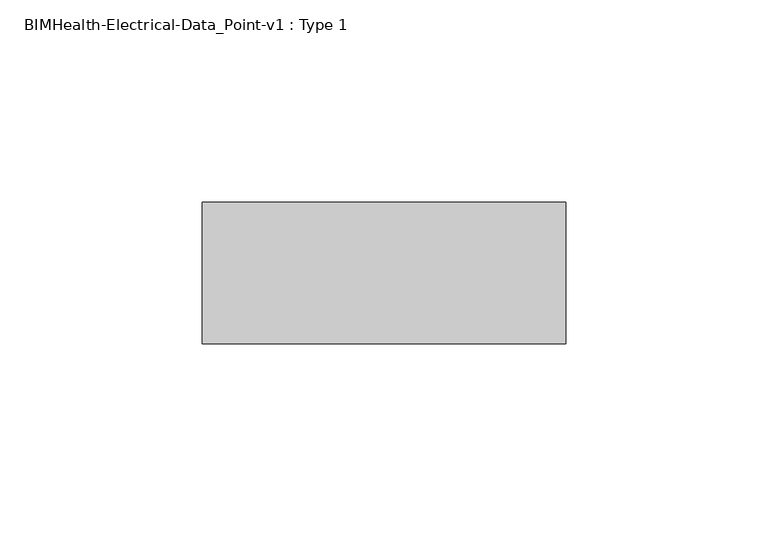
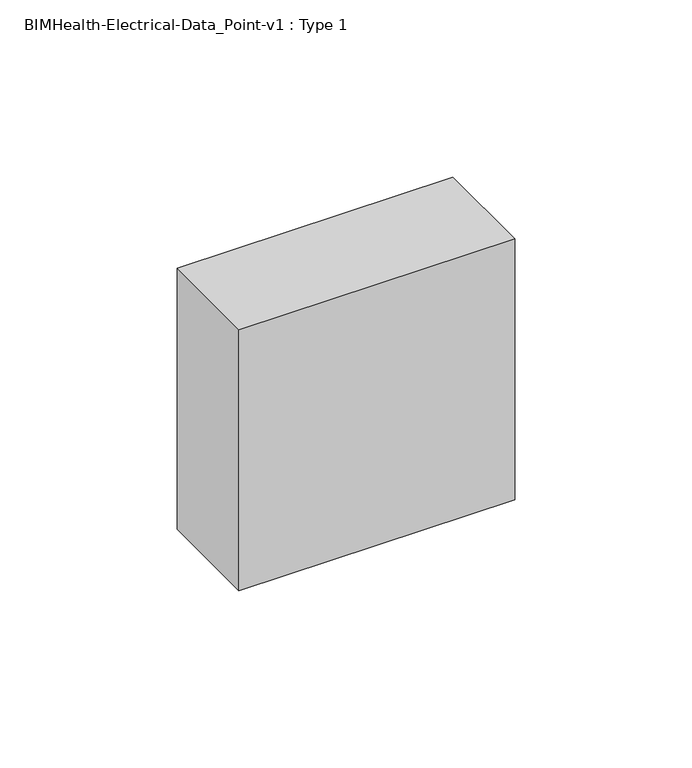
"""IFC4 building model written with IfcOpenShell, lengths in millimetres: proxy geometry, BIMHealth-Electrical-Data_Point-v1 : Type 1."""

from ifc_helpers import new_model, si_unit, frame, origin, place, context, project, spatial, polyline, outline, extrude, source, transform, mapped, element, save


def bimhealth_electrical_data_point_v1_type_1_559430e2(model_context):
    return source(origin(), model_context, "Body", "SweptSolid", [
        extrude(outline(polyline([(125.0, 25.0), (125.0, 60.0), (215.0, 60.0), (215.0, 25.0), (125.0, 25.0)])), frame((0.0, 0.0, 750.0), z_axis=(0.0, 0.0, 1.0), x_axis=(1.0, 0.0, 0.0)), (0.0, 0.0, 1.0), 90.0),
    ])


if __name__ == "__main__":
    model = new_model("IFC4")
    model_context = context("Model", 3, world=origin())
    ifc_project = project(units=[si_unit("LENGTHUNIT", "METRE", prefix="MILLI")], contexts=[model_context])
    site = spatial("IfcSite", under=ifc_project)
    building = spatial("IfcBuilding", under=site)
    placement = place(None, origin())
    bimhealth_electrical_data_point_v1_type_1_shape = bimhealth_electrical_data_point_v1_type_1_559430e2(model_context)
    element("IfcBuildingElementProxy", 1, Name="BIMHealth-Electrical-Data_Point-v1 : Type 1", ObjectType="BIMHealth-Electrical-Data_Point-v1 : Type 1", at=placement, inside=building, context=model_context, shape_type="MappedRepresentation", body=[
        mapped(bimhealth_electrical_data_point_v1_type_1_shape, transform((0.0, 0.0, 0.0), x_axis=(1.0, 0.0, 0.0), y_axis=(0.0, 1.0, 0.0), z_axis=(0.0, 0.0, 1.0))),
    ])
    save(model, "model.ifc")
